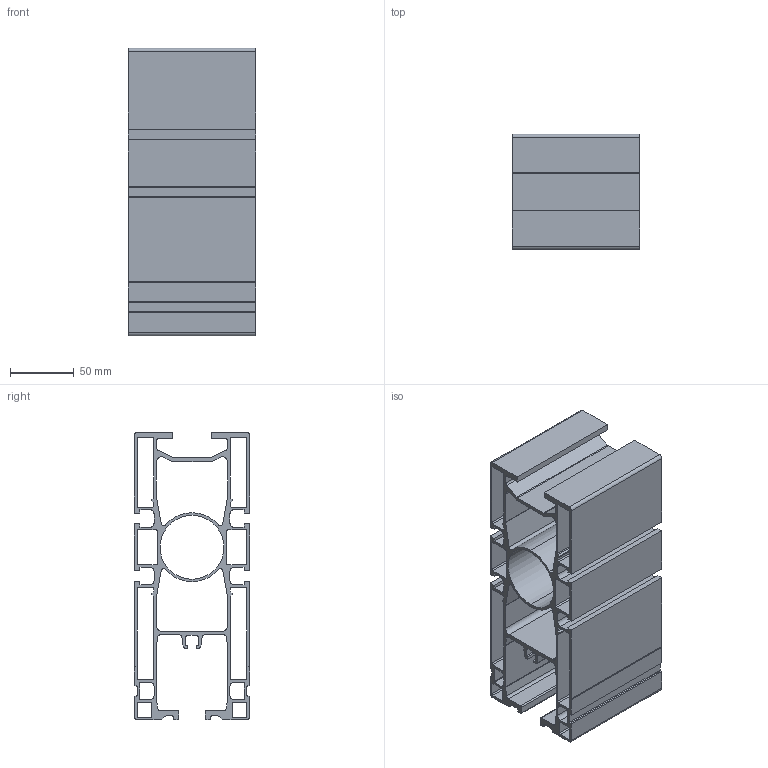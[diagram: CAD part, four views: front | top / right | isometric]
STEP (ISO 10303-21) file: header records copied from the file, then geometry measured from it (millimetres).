
FILE_DESCRIPTION (( 'STEP AP214' ), '1' );
FILE_NAME ('900.225.090.STEP', '2020-07-23T09:06:19', ( '' ), ( '' ), 'SwSTEP 2.0', 'SolidWorks 2018', '' );
FILE_SCHEMA (( 'AUTOMOTIVE_DESIGN' ));
Length unit declared in the file: millimetre
Products named in the file (1): 900.225.090
Bounding box: 100 x 90 x 225 mm (x, y, z)
Volume: 369344.9 mm3; surface area: 272172.8 mm2
Topology: 1 solids, 1 shells, 281 faces, 837 edges, 558 vertices
Faces by surface type: plane 162, cylinder 119
Entity records: 9555 total; most frequent: CARTESIAN_POINT 1677, ORIENTED_EDGE 1674, DIRECTION 1639, EDGE_CURVE 837, VECTOR 599, LINE 599, VERTEX_POINT 558, AXIS2_PLACEMENT_3D 520
